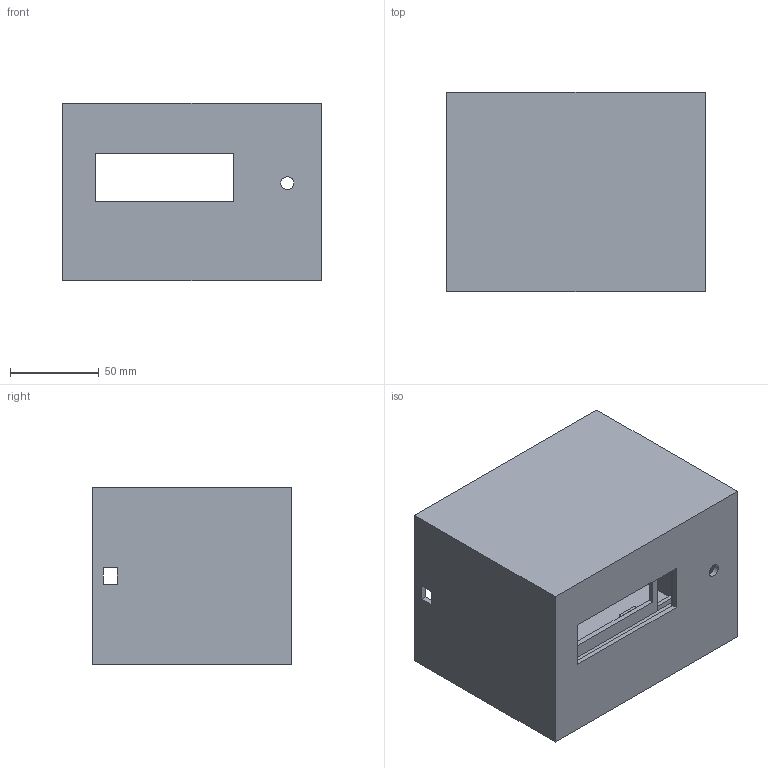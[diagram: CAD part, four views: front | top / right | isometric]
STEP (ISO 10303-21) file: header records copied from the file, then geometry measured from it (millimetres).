
FILE_DESCRIPTION(('Open CASCADE Model'),'2;1');
FILE_NAME('Open CASCADE Shape Model','2026-11-04T18:29:39',('Author'),( 'Open CASCADE'),'Open CASCADE STEP processor 7.8','Open CASCADE 7.8' ,'Unknown');
FILE_SCHEMA(('AUTOMOTIVE_DESIGN { 1 0 10303 214 1 1 1 1 }'));
Length unit declared in the file: millimetre
Products named in the file (1): Open CASCADE STEP translator 7.8 1
Bounding box: 145 x 112 x 100 mm (x, y, z)
Volume: 214301.6 mm3; surface area: 153602.8 mm2
Topology: 1 solids, 1 shells, 171 faces, 476 edges, 316 vertices
Faces by surface type: plane 169, cylinder 2
Full cylindrical faces by diameter (mm): 7.2 x1, 16 x1
Entity records: 11296 total; most frequent: CARTESIAN_POINT 2232, DIRECTION 1460, LINE 1104, VECTOR 1104, ORIENTED_EDGE 952, PCURVE 952, DEFINITIONAL_REPRESENTATION 952, EDGE_CURVE 476
